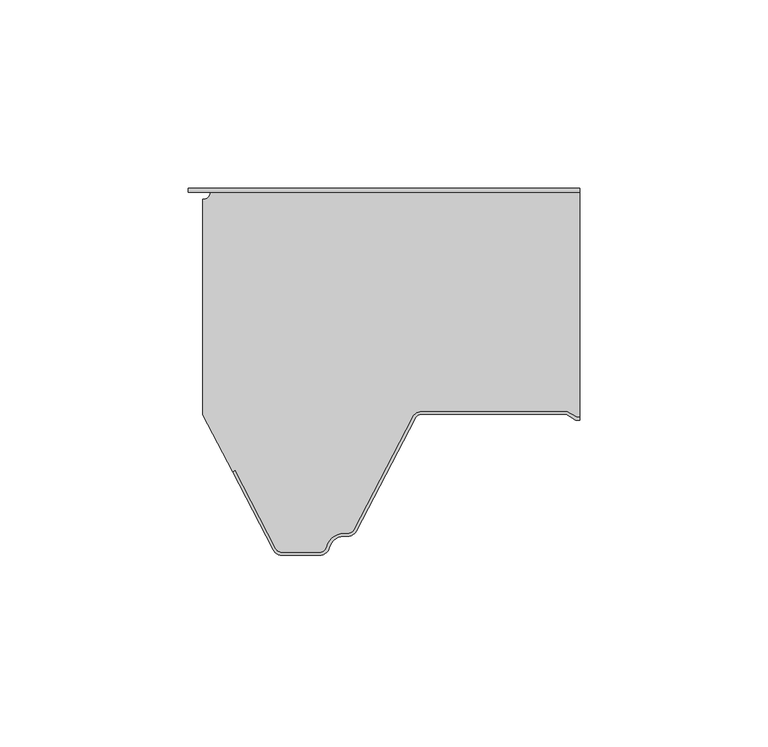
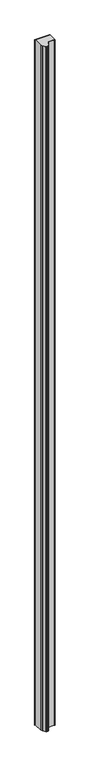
"""IFC4 building model written with IfcOpenShell, lengths in millimetres: plate geometry, Paneles-Sándwich-Madera_PALDR-H_Curtain-Panel : PALDR H 60/10."""

import ifcopenshell
import ifcopenshell.guid

model = None  # the IFC model being written
_history = None  # IfcOwnerHistory: only IFC2X3 demands one
_inside = {}  # id of a spatial element -> (the spatial element, [elements in it])
_under = {}  # id of a project, library or spatial element -> (it, [spatial elements below it])
_declared = {}  # id of a project -> (the project, [libraries it declares])
_typed = {}  # id of a type object -> (the type object, [elements of that type])
_made_of = {}  # id of a material, layer set ... -> (it, [elements and type objects made of it])


def new_model(schema):
    """Start an empty IFC model of exactly this schema.

    Asked for "IFC4X3", IfcOpenShell would pick the latest addendum, in which some entities
    have other attributes; the version numbers below select the first issue.
    IFC2X3 requires an IfcOwnerHistory on every rooted entity: one is made here for all.
    """
    global model, _history
    if schema == "IFC4X3":
        model = ifcopenshell.file(schema_version=(4, 3, 0, 0))
    else:
        model = ifcopenshell.file(schema=schema)
    _inside.clear()
    _under.clear()
    _declared.clear()
    _typed.clear()
    _made_of.clear()
    _history = None
    if model.schema == "IFC2X3":
        org = make("IfcOrganization", Name="unknown")
        user = make(
            "IfcPersonAndOrganization",
            ThePerson=make("IfcPerson", FamilyName="unknown"),
            TheOrganization=org,
        )
        app = make(
            "IfcApplication",
            ApplicationDeveloper=org,
            Version="unknown",
            ApplicationFullName="unknown",
            ApplicationIdentifier="unknown",
        )
        _history = make(
            "IfcOwnerHistory",
            OwningUser=user,
            OwningApplication=app,
            ChangeAction="ADDED",
            CreationDate=0,
        )
    return model


def make(cls, **values):
    """One entity of the class cls with the attributes given. An attribute that is None is left unset."""
    return model.create_entity(
        cls, **{name: value for name, value in values.items() if value is not None}
    )


def rooted(cls, **values):
    """An entity with a GlobalId (a new one), such as an element, a storey or a relation."""
    return make(cls, GlobalId=ifcopenshell.guid.new(), OwnerHistory=_history, **values)


def si_unit(unit_type, name, prefix=None):
    """IfcSIUnit, for example si_unit("LENGTHUNIT", "METRE", prefix="MILLI")."""
    return make("IfcSIUnit", UnitType=unit_type, Prefix=prefix, Name=name)


def assignment(units):
    """IfcUnitAssignment: the units of a project."""
    return None if units is None else make("IfcUnitAssignment", Units=units)


def point(xyz):
    """IfcCartesianPoint."""
    return None if xyz is None else make("IfcCartesianPoint", Coordinates=xyz)


def direction(xyz):
    """IfcDirection."""
    return None if xyz is None else make("IfcDirection", DirectionRatios=xyz)


def frame(location, z_axis=None, x_axis=None):
    """IfcAxis2Placement3D, a coordinate frame: its origin and axes. An axis left out is left unset."""
    return make(
        "IfcAxis2Placement3D",
        Location=point(location),
        Axis=direction(z_axis),
        RefDirection=direction(x_axis),
    )


def origin():
    """The frame at (0, 0, 0) with its axes left unset."""
    return frame((0.0, 0.0, 0.0))


def origin_with_axes():
    """The frame at (0, 0, 0) with the z axis (0, 0, 1) and the x axis (1, 0, 0) written out."""
    return frame((0.0, 0.0, 0.0), z_axis=(0.0, 0.0, 1.0), x_axis=(1.0, 0.0, 0.0))


def place(relative_to, where):
    """IfcLocalPlacement: puts the frame where relative to a parent placement (None: the world)."""
    return make(
        "IfcLocalPlacement", PlacementRelTo=relative_to, RelativePlacement=where
    )


def context(
    kind, dimensions, precision=None, world=None, true_north=None, identifier=None
):
    """IfcGeometricRepresentationContext, for example the 3D "Model" context."""
    return make(
        "IfcGeometricRepresentationContext",
        ContextIdentifier=identifier,
        ContextType=kind,
        CoordinateSpaceDimension=dimensions,
        Precision=precision,
        WorldCoordinateSystem=world,
        TrueNorth=true_north,
    )


def project(units=None, contexts=None):
    """IfcProject with its units and contexts."""
    return rooted(
        "IfcProject",
        Name="project",
        RepresentationContexts=contexts,
        UnitsInContext=assignment(units),
    )


def spatial(cls, under=None, at=None, **own):
    """A site, building, storey or space (cls), placed at a placement, below another one or the project."""
    s = rooted(cls, ObjectPlacement=at, **own)
    if under is not None:
        _under.setdefault(under.id(), (under, []))[1].append(s)
    return s


def polyline(points):
    """IfcPolyline through the points."""
    return make("IfcPolyline", Points=[point(p) for p in points])


def circle_curve(where, radius):
    """IfcCircle in the frame where."""
    return make("IfcCircle", Position=where, Radius=radius)


def outline(outer, holes=None, kind="AREA"):
    """IfcArbitraryClosedProfileDef: a profile drawn as a closed curve; with holes, ...WithVoids."""
    if holes is None:
        return make("IfcArbitraryClosedProfileDef", ProfileType=kind, OuterCurve=outer)
    return make(
        "IfcArbitraryProfileDefWithVoids",
        ProfileType=kind,
        OuterCurve=outer,
        InnerCurves=holes,
    )


def extrude(swept, where, along, depth):
    """IfcExtrudedAreaSolid: the profile swept, set in the frame where, extruded along a direction by depth."""
    return make(
        "IfcExtrudedAreaSolid",
        SweptArea=swept,
        Position=where,
        ExtrudedDirection=direction(along),
        Depth=depth,
    )


def shape(context_of_items, identifier, shape_type, items):
    """IfcShapeRepresentation: the items that make up one representation, for example the "Body"."""
    return make(
        "IfcShapeRepresentation",
        ContextOfItems=context_of_items,
        RepresentationIdentifier=identifier,
        RepresentationType=shape_type,
        Items=items,
    )


def source(mapping_origin, context_of_items, identifier, shape_type, items):
    """IfcRepresentationMap: a shape defined once, which mapped items show again and again."""
    return make(
        "IfcRepresentationMap",
        MappingOrigin=mapping_origin,
        MappedRepresentation=shape(context_of_items, identifier, shape_type, items),
    )


def transform(
    local_origin,
    x_axis=None,
    y_axis=None,
    z_axis=None,
    scale=None,
    scale2=None,
    scale3=None,
    uniform=True,
):
    """IfcCartesianTransformationOperator3D, or its non-uniform kind. x_axis, y_axis, z_axis: its Axis1, 2, 3."""
    if uniform:
        return make(
            "IfcCartesianTransformationOperator3D",
            Axis1=direction(x_axis),
            Axis2=direction(y_axis),
            LocalOrigin=point(local_origin),
            Scale=scale,
            Axis3=direction(z_axis),
        )
    return make(
        "IfcCartesianTransformationOperator3DnonUniform",
        Axis1=direction(x_axis),
        Axis2=direction(y_axis),
        LocalOrigin=point(local_origin),
        Scale=scale,
        Axis3=direction(z_axis),
        Scale2=scale2,
        Scale3=scale3,
    )


def mapped(mapping_source, mapping_target):
    """IfcMappedItem: shows the shape of a source again, moved by a transform."""
    return make(
        "IfcMappedItem", MappingSource=mapping_source, MappingTarget=mapping_target
    )


def made_of(thing, what):
    """Note that an element or type object is made of a material, layer set ...; save() writes the relation."""
    if what is not None:
        _made_of.setdefault(what.id(), (what, []))[1].append(thing)
    return thing


def element(
    cls,
    number,
    at=None,
    inside=None,
    cuts=None,
    type_object=None,
    material=None,
    context=None,
    identifier="Body",
    shape_type=None,
    held_by="IfcProductDefinitionShape",
    body=None,
    shapes=None,
    **own,
):
    """One element of the class cls, such as IfcWall. Its Tag is "e" and its number.

    at: its placement. inside: the storey or other place that contains it. cuts: it is an
    opening in that element (IfcRelVoidsElement). A single representation is given by context,
    identifier, shape_type and body (its items); several are given by shapes. held_by: the class
    of the entity that holds the representations. save() writes the other relations.
    """
    e = rooted(cls, Tag="e%d" % number, ObjectPlacement=at, **own)
    if body is not None:
        shapes = [shape(context, identifier, shape_type, body)]
    if shapes is not None:
        e.Representation = make(held_by, Representations=shapes)
    if inside is not None:
        _inside.setdefault(inside.id(), (inside, []))[1].append(e)
    if cuts is not None:
        rooted(
            "IfcRelVoidsElement", RelatingBuildingElement=cuts, RelatedOpeningElement=e
        )
    if type_object is not None:
        _typed.setdefault(type_object.id(), (type_object, []))[1].append(e)
    return made_of(e, material)


def aggregate(whole, parts):
    """IfcRelAggregates: a whole, such as a stair, and the parts it consists of."""
    return rooted("IfcRelAggregates", RelatingObject=whole, RelatedObjects=parts)


def save(model, path):
    """Write the relations noted so far, then the file.

    IfcRelAggregates (storeys below a building ...), IfcRelContainedInSpatialStructure (elements
    in a storey), IfcRelDefinesByType, IfcRelAssociatesMaterial and IfcRelDeclares: one each for
    every whole, place, type object, material and project.
    """
    for whole, parts in _under.values():
        aggregate(whole, parts)
    for where, things in _inside.values():
        rooted(
            "IfcRelContainedInSpatialStructure",
            RelatedElements=things,
            RelatingStructure=where,
        )
    for kind, things in _typed.values():
        rooted("IfcRelDefinesByType", RelatedObjects=things, RelatingType=kind)
    for what, things in _made_of.values():
        rooted("IfcRelAssociatesMaterial", RelatedObjects=things, RelatingMaterial=what)
    for by, libraries in _declared.values():
        rooted("IfcRelDeclares", RelatingContext=by, RelatedDefinitions=libraries)
    model.write(path)


def plane_surface(at):
    """IfcPlane: the flat surface through the origin of the frame at, square to its z axis."""
    return make("IfcPlane", Position=at)


def cylinder_surface(at, radius):
    """IfcCylindricalSurface: all points at the distance radius from the z axis of the frame at."""
    return make("IfcCylindricalSurface", Position=at, Radius=radius)


def revolved_surface(curve, axis_point, axis_direction):
    """IfcSurfaceOfRevolution: the curve turned about the line through axis_point along axis_direction."""
    return make(
        "IfcSurfaceOfRevolution",
        SweptCurve=make("IfcArbitraryOpenProfileDef", ProfileType="CURVE", Curve=curve),
        AxisPosition=make("IfcAxis1Placement", Location=point(axis_point), Axis=direction(axis_direction)),
    )


def advanced_brep(points, edges, surfaces, faces):
    """IfcAdvancedBrep: a solid bounded by faces that lie on surfaces and meet in shared edges.

    An edge is (start, end): straight between two places in points (the first is 0);
    or (start, end, curve); or (start, end, curve, False) where it runs against its curve.
    A face is (place in surfaces, loops), or (place, loops, False) where it looks against
    its surface's normal. A loop lists edges by number (the first is 1), with a minus sign
    where the edge is run from its end to its start. The first loop is the outer one.
    """
    corners = [point(p) for p in points]
    vertices = [make("IfcVertexPoint", VertexGeometry=c) for c in corners]
    made = []
    for start, end, *more in edges:
        made.append(
            make(
                "IfcEdgeCurve",
                EdgeStart=vertices[start],
                EdgeEnd=vertices[end],
                EdgeGeometry=more[0] if more else make("IfcPolyline", Points=[corners[start], corners[end]]),
                SameSense=more[1] if len(more) > 1 else True,
            )
        )
    hull = []
    for where, loops, *sense in faces:
        bounds = []
        for j, loop in enumerate(loops):
            ring = [make("IfcOrientedEdge", EdgeElement=made[abs(k) - 1], Orientation=k > 0) for k in loop]
            bounds.append(
                make(
                    "IfcFaceOuterBound" if j == 0 else "IfcFaceBound",
                    Bound=make("IfcEdgeLoop", EdgeList=ring),
                    Orientation=True,
                )
            )
        hull.append(make("IfcAdvancedFace", Bounds=bounds, FaceSurface=surfaces[where], SameSense=sense[0] if sense else True))
    return make("IfcAdvancedBrep", Outer=make("IfcClosedShell", CfsFaces=hull))


def plate_cfb06c0a(model_context):
    return source(origin(), model_context, "Body", "SolidModel", [
        extrude(outline(polyline([(-53.88, -1.0), (-53.88, 0.0), (50.0, 0.0), (50.0, -1.0), (-53.88, -1.0)])), origin_with_axes(), (0.0, 0.0, 1.0), 5000.0),
        advanced_brep(
        [(-30.6207387, -95.6314818, 0.0), (-41.4414179, -74.855778, 0.0), (-42.1509492, -75.2253256, 0.0), (-50.0, -60.1551481, 0.0), (-50.0, -2.95, 0.0), (-48.05, -1.0, 0.0), (50.0, -1.0, 0.0), (50.0, -60.7, 0.0), (49.2107961, -60.7, 0.0), (46.6127185, -59.2, 0.0), (8.090871, -59.2, 0.0), (5.6075115, -60.7065836, 0.0), (-9.9783733, -90.6314825, 0.0), (-11.574819, -91.6, 0.0), (-12.6272901, -91.6, 0.0), (-17.2841077, -95.2363636, 0.0), (-19.030414, -96.5999997, 0.0), (-29.024293, -96.5999997, 0.0), (-30.6207383, -95.6314813, 5000.0), (-29.024293, -96.5999997, 5000.0), (-19.030414, -96.5999997, 5000.0), (-17.2841077, -95.2363636, 5000.0), (-12.6272901, -91.6, 5000.0), (-11.574819, -91.6, 5000.0), (-9.9783737, -90.631482, 5000.0), (5.6075107, -60.7065835, 5000.0), (8.090871, -59.2, 5000.0), (46.6127185, -59.2, 5000.0), (49.2107961, -60.7, 5000.0), (50.0, -60.7, 5000.0), (50.0, -1.0, 5000.0), (-48.05, -1.0, 5000.0), (-50.0, -2.95, 5000.0), (-50.0, -60.1551481, 5000.0), (-42.1509492, -75.2253256, 5000.0), (-41.4414179, -74.855778, 5000.0)],
        [
            (0, 1),
            (1, 2),
            (2, 3),
            (3, 4),
            (4, 5, circle_curve(frame((-50.0, -1.0, 0.0), z_axis=(0.0, 0.0, 1.0), x_axis=(-1.0, 0.0, 0.0)), 1.95)),
            (5, 6),
            (6, 7),
            (7, 8),
            (8, 9),
            (9, 10),
            (10, 11, circle_curve(frame((8.090871, -62.0, 0.0), z_axis=(0.0, 0.0, 1.0), x_axis=(-1.0, 0.0, 0.0)), 2.8)),
            (11, 12),
            (12, 13, circle_curve(frame((-11.574819, -89.8, 0.0), z_axis=(0.0, 0.0, -1.0), x_axis=(-1.0, 0.0, 0.0)), 1.8)),
            (13, 14),
            (14, 15, circle_curve(frame((-12.6272901, -96.4, 0.0), z_axis=(0.0, 0.0, 1.0), x_axis=(-1.0, 0.0, 0.0)), 4.8)),
            (15, 16, circle_curve(frame((-19.030414, -94.8, 0.0), z_axis=(0.0, 0.0, -1.0), x_axis=(-1.0, 0.0, 0.0)), 1.7999997)),
            (16, 17),
            (17, 0, circle_curve(frame((-29.024293, -94.8, 0.0), z_axis=(0.0, 0.0, -1.0), x_axis=(-1.0, 0.0, 0.0)), 1.7999997)),
            (18, 19, circle_curve(frame((-29.024293, -94.8, 5000.0), z_axis=(0.0, 0.0, 1.0), x_axis=(-1.0, 0.0, 0.0)), 1.7999997)),
            (19, 20),
            (20, 21, circle_curve(frame((-19.030414, -94.8, 5000.0), z_axis=(0.0, 0.0, 1.0), x_axis=(-1.0, 0.0, 0.0)), 1.7999997)),
            (21, 22, circle_curve(frame((-12.6272901, -96.4, 5000.0), z_axis=(0.0, 0.0, -1.0), x_axis=(-1.0, 0.0, 0.0)), 4.8)),
            (22, 23),
            (23, 24, circle_curve(frame((-11.574819, -89.8, 5000.0), z_axis=(0.0, 0.0, 1.0), x_axis=(-1.0, 0.0, 0.0)), 1.8)),
            (24, 25),
            (25, 26, circle_curve(frame((8.090871, -62.0, 5000.0), z_axis=(0.0, 0.0, -1.0), x_axis=(-1.0, 0.0, 0.0)), 2.8)),
            (26, 27),
            (27, 28),
            (28, 29),
            (29, 30),
            (30, 31),
            (31, 32, circle_curve(frame((-50.0, -1.0, 5000.0), z_axis=(0.0, 0.0, -1.0), x_axis=(-1.0, 0.0, 0.0)), 1.95)),
            (32, 33),
            (33, 34),
            (34, 35),
            (35, 18),
            (0, 18),
            (35, 1),
            (34, 2),
            (33, 3),
            (32, 4),
            (5, 31),
            (30, 6),
            (28, 8),
            (7, 29),
            (27, 9),
            (26, 10),
            (25, 11),
            (24, 12),
            (23, 13),
            (22, 14),
            (21, 15),
            (20, 16),
            (19, 17),
        ],
        [
            plane_surface(frame((-50.0, 0.0, 0.0), z_axis=(0.0, 0.0, -1.0), x_axis=(0.0, 1.0, 0.0))),
            plane_surface(frame((-50.0, 0.0, 5000.0), z_axis=(0.0, 0.0, 1.0), x_axis=(0.0, 1.0, 0.0))),
            plane_surface(frame((-30.6207387, -95.6314818, 0.0), z_axis=(-0.8869140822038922, -0.46193442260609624, 0.0), x_axis=(0.0, 0.0, 1.0))),
            plane_surface(frame((-41.4414179, -74.855778, 0.0), z_axis=(0.4619344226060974, -0.8869140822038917, 0.0), x_axis=(0.0, 0.0, 1.0))),
            plane_surface(frame((-42.1509492, -75.2253256, 0.0), z_axis=(-0.8869140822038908, -0.4619344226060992, 0.0), x_axis=(0.0, 0.0, 1.0))),
            plane_surface(frame((-50.0, -60.1551481, 0.0), z_axis=(-1.0, 0.0, 0.0), x_axis=(0.0, 0.0, 1.0))),
            plane_surface(frame((-48.05, -1.0, 0.0), z_axis=(0.0, 1.0, 0.0), x_axis=(0.0, 0.0, 1.0))),
            plane_surface(frame((81.5859248, -60.7, 0.0), z_axis=(0.0, -1.0, 0.0), x_axis=(0.0, 0.0, 1.0))),
            plane_surface(frame((49.2107961, -60.7, 0.0), z_axis=(-0.4999997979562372, -0.866025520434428, 0.0), x_axis=(0.0, 0.0, 1.0))),
            plane_surface(frame((46.6127185, -59.2, 0.0), z_axis=(0.0, -1.0, 0.0), x_axis=(0.0, 0.0, 1.0))),
            revolved_surface(polyline([(5.290871, -62.0, 5000.0), (5.290871, -62.0, 0.0)]), (8.090871, -62.0, 0.0), (0.0, 0.0, 1.0)),
            plane_surface(frame((5.6075107, -60.7065835, 0.0), z_axis=(0.8869140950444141, -0.4619343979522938, 0.0), x_axis=(0.0, 0.0, 1.0))),
            cylinder_surface(frame((-11.574819, -89.8, 0.0), z_axis=(0.0, 0.0, -1.0), x_axis=(-1.0, 0.0, 0.0)), 1.8),
            plane_surface(frame((-11.574819, -91.6, 0.0), z_axis=(0.0, -1.0, 0.0), x_axis=(0.0, 0.0, 1.0))),
            revolved_surface(polyline([(-17.4272901, -96.4, 5000.0), (-17.4272901, -96.4, 0.0)]), (-12.6272901, -96.4, 0.0), (0.0, 0.0, 1.0)),
            cylinder_surface(frame((-19.030414, -94.8, 0.0), z_axis=(0.0, 0.0, -1.0), x_axis=(-1.0, 0.0, 0.0)), 1.7999997),
            plane_surface(frame((-19.030414, -96.5999997, 0.0), z_axis=(0.0, -1.0, 0.0), x_axis=(0.0, 0.0, 1.0))),
            cylinder_surface(frame((-29.024293, -94.8, 0.0), z_axis=(0.0, 0.0, -1.0), x_axis=(-1.0, 0.0, 0.0)), 1.7999997),
            revolved_surface(polyline([(-51.95, -1.0, 5000.0), (-51.95, -1.0, 0.0)]), (-50.0, -1.0, 0.0), (0.0, 0.0, 1.0)),
            plane_surface(frame((50.0, 0.0, 5000.0), z_axis=(1.0, 0.0, 0.0), x_axis=(0.0, 0.0, -1.0))),
        ],
        [
            (0, [[1, 2, 3, 4, 5, 6, 7, 8, 9, 10, 11, 12, 13, 14, 15, 16, 17, 18]]),
            (1, [[19, 20, 21, 22, 23, 24, 25, 26, 27, 28, 29, 30, 31, 32, 33, 34, 35, 36]]),
            (2, [[-1, 37, -36, 38]]),
            (3, [[-2, -38, -35, 39]]),
            (4, [[-3, -39, -34, 40]]),
            (5, [[-4, -40, -33, 41]]),
            (6, [[42, -31, 43, -6]]),
            (7, [[44, -8, 45, -29]]),
            (8, [[-9, -44, -28, 46]]),
            (9, [[-10, -46, -27, 47]]),
            (10, [[-11, -47, -26, 48]]),
            (11, [[-12, -48, -25, 49]]),
            (12, [[-13, -49, -24, 50]]),
            (13, [[-14, -50, -23, 51]]),
            (14, [[-15, -51, -22, 52]]),
            (15, [[-16, -52, -21, 53]]),
            (16, [[-17, -53, -20, 54]]),
            (17, [[-18, -54, -19, -37]]),
            (18, [[-5, -41, -32, -42]]),
            (19, [[-7, -43, -30, -45]]),
        ],
    ),
        advanced_brep(
        [(49.2107962, -60.7, 5000.0), (46.6127186, -59.2, 5000.0), (8.090871, -59.2, 5000.0), (5.6075116, -60.7065836, 5000.0), (-9.9783733, -90.6314825, 5000.0), (-11.574819, -91.6, 5000.0), (-12.62729, -91.6, 5000.0), (-17.2841076, -95.2363636, 5000.0), (-19.030414, -96.6, 5000.0), (-29.024293, -96.6, 5000.0), (-30.6207383, -95.631482, 5000.0), (-41.4404688, -74.8576004, 5000.0), (-42.15, -75.227148, 5000.0), (-31.33027, -96.00103, 5000.0), (-29.024293, -97.4, 5000.0), (-19.030414, -97.4, 5000.0), (-16.5079711, -95.4303031, 5000.0), (-12.62729, -92.4, 5000.0), (-11.574819, -92.4, 5000.0), (-9.2688424, -91.0010295, 5000.0), (6.317042, -61.076131, 5000.0), (8.090871, -60.0, 5000.0), (46.3983593, -60.0, 5000.0), (48.9964369, -61.5, 5000.0), (50.0, -61.5, 5000.0), (50.0, -60.7, 5000.0), (48.9964369, -61.5, 0.0), (46.3983593, -60.0, 0.0), (8.090871, -60.0, 0.0), (6.3170428, -61.0761312, 0.0), (-9.268842, -91.00103, 0.0), (-11.574819, -92.4, 0.0), (-12.62729, -92.4, 0.0), (-16.5079713, -95.430303, 0.0), (-19.030414, -97.4, 0.0), (-29.024293, -97.4, 0.0), (-31.3302696, -96.0010295, 0.0), (-42.15, -75.227148, 0.0), (-41.4404688, -74.8576004, 0.0), (-30.6207387, -95.6314825, 0.0), (-29.024293, -96.6, 0.0), (-19.030414, -96.6, 0.0), (-17.2841074, -95.2363637, 0.0), (-12.62729, -91.6, 0.0), (-11.574819, -91.6, 0.0), (-9.9783737, -90.631482, 0.0), (5.6075107, -60.7065835, 0.0), (8.090871, -59.2, 0.0), (46.6127186, -59.2, 0.0), (49.2107962, -60.7, 0.0), (50.0, -60.7, 0.0), (50.0, -61.5, 0.0)],
        [
            (0, 1),
            (1, 2),
            (2, 3, circle_curve(frame((8.090871, -62.0, 5000.0), z_axis=(0.0, 0.0, 1.0), x_axis=(1.0, 0.0, 0.0)), 2.8)),
            (3, 4),
            (4, 5, circle_curve(frame((-11.574819, -89.8, 5000.0), z_axis=(0.0, 0.0, -1.0), x_axis=(1.0, 0.0, 0.0)), 1.8)),
            (5, 6),
            (6, 7, circle_curve(frame((-12.62729, -96.4, 5000.0), z_axis=(0.0, 0.0, 1.0), x_axis=(1.0, 0.0, 0.0)), 4.8)),
            (7, 8, circle_curve(frame((-19.030414, -94.8, 5000.0), z_axis=(0.0, 0.0, -1.0), x_axis=(1.0, 0.0, 0.0)), 1.8)),
            (8, 9),
            (9, 10, circle_curve(frame((-29.024293, -94.8, 5000.0), z_axis=(0.0, 0.0, -1.0), x_axis=(1.0, 0.0, 0.0)), 1.8)),
            (10, 11),
            (11, 12),
            (12, 13),
            (13, 14, circle_curve(frame((-29.024293, -94.8, 5000.0), z_axis=(0.0, 0.0, 1.0), x_axis=(1.0, 0.0, 0.0)), 2.6)),
            (14, 15),
            (15, 16, circle_curve(frame((-19.030414, -94.8, 5000.0), z_axis=(0.0, 0.0, 1.0), x_axis=(1.0, 0.0, 0.0)), 2.6)),
            (16, 17, circle_curve(frame((-12.62729, -96.4, 5000.0), z_axis=(0.0, 0.0, -1.0), x_axis=(1.0, 0.0, 0.0)), 4.0)),
            (17, 18),
            (18, 19, circle_curve(frame((-11.574819, -89.8, 5000.0), z_axis=(0.0, 0.0, 1.0), x_axis=(1.0, 0.0, 0.0)), 2.6)),
            (19, 20),
            (20, 21, circle_curve(frame((8.090871, -62.0, 5000.0), z_axis=(0.0, 0.0, -1.0), x_axis=(1.0, 0.0, 0.0)), 2.0)),
            (21, 22),
            (22, 23),
            (23, 24),
            (24, 25),
            (25, 0),
            (26, 27),
            (27, 28),
            (28, 29, circle_curve(frame((8.090871, -62.0, 0.0), z_axis=(0.0, 0.0, 1.0), x_axis=(1.0, 0.0, 0.0)), 2.0)),
            (29, 30),
            (30, 31, circle_curve(frame((-11.574819, -89.8, 0.0), z_axis=(0.0, 0.0, -1.0), x_axis=(1.0, 0.0, 0.0)), 2.6)),
            (31, 32),
            (32, 33, circle_curve(frame((-12.62729, -96.4, 0.0), z_axis=(0.0, 0.0, 1.0), x_axis=(1.0, 0.0, 0.0)), 4.0)),
            (33, 34, circle_curve(frame((-19.030414, -94.8, 0.0), z_axis=(0.0, 0.0, -1.0), x_axis=(1.0, 0.0, 0.0)), 2.6)),
            (34, 35),
            (35, 36, circle_curve(frame((-29.024293, -94.8, 0.0), z_axis=(0.0, 0.0, -1.0), x_axis=(1.0, 0.0, 0.0)), 2.6)),
            (36, 37),
            (37, 38),
            (38, 39),
            (39, 40, circle_curve(frame((-29.024293, -94.8, 0.0), z_axis=(0.0, 0.0, 1.0), x_axis=(1.0, 0.0, 0.0)), 1.8)),
            (40, 41),
            (41, 42, circle_curve(frame((-19.030414, -94.8, 0.0), z_axis=(0.0, 0.0, 1.0), x_axis=(1.0, 0.0, 0.0)), 1.8)),
            (42, 43, circle_curve(frame((-12.62729, -96.4, 0.0), z_axis=(0.0, 0.0, -1.0), x_axis=(1.0, 0.0, 0.0)), 4.8)),
            (43, 44),
            (44, 45, circle_curve(frame((-11.574819, -89.8, 0.0), z_axis=(0.0, 0.0, 1.0), x_axis=(1.0, 0.0, 0.0)), 1.8)),
            (45, 46),
            (46, 47, circle_curve(frame((8.090871, -62.0, 0.0), z_axis=(0.0, 0.0, -1.0), x_axis=(1.0, 0.0, 0.0)), 2.8)),
            (47, 48),
            (48, 49),
            (49, 50),
            (50, 51),
            (51, 26),
            (49, 0),
            (25, 50),
            (48, 1),
            (47, 2),
            (46, 3),
            (45, 4),
            (44, 5),
            (43, 6),
            (42, 7),
            (41, 8),
            (40, 9),
            (39, 10),
            (38, 11),
            (37, 12),
            (36, 13),
            (35, 14),
            (34, 15),
            (33, 16),
            (32, 17),
            (31, 18),
            (30, 19),
            (29, 20),
            (28, 21),
            (27, 22),
            (26, 23),
            (51, 24),
        ],
        [
            plane_surface(frame((-50.0, -60.0, 5000.0), z_axis=(0.0, 0.0, 1.0), x_axis=(0.0, 1.0, 0.0))),
            plane_surface(frame((-50.0, -60.0, 0.0), z_axis=(0.0, 0.0, -1.0), x_axis=(0.0, 1.0, 0.0))),
            plane_surface(frame((81.5859248, -60.7, 5000.0), z_axis=(0.0, 1.0, 0.0), x_axis=(0.0, 0.0, -1.0))),
            plane_surface(frame((49.2107962, -60.7, 5000.0), z_axis=(0.4999997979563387, 0.8660255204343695, 0.0), x_axis=(0.0, 0.0, -1.0))),
            plane_surface(frame((46.6127186, -59.2, 5000.0), z_axis=(0.0, 1.0, 0.0), x_axis=(0.0, 0.0, -1.0))),
            cylinder_surface(frame((8.090871, -62.0, 5000.0), z_axis=(0.0, 0.0, 1.0), x_axis=(1.0, 0.0, 0.0)), 2.8),
            plane_surface(frame((5.6075107, -60.7065835, 5000.0), z_axis=(-0.8869140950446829, 0.4619343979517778, 0.0), x_axis=(0.0, 0.0, -1.0))),
            revolved_surface(polyline([(-9.774818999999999, -89.8, 0.0), (-9.774818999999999, -89.8, 5000.0)]), (-11.574819, -89.8, 5000.0), (0.0, 0.0, -1.0)),
            plane_surface(frame((-11.574819, -91.6, 5000.0), z_axis=(0.0, 1.0, 0.0), x_axis=(0.0, 0.0, -1.0))),
            cylinder_surface(frame((-12.62729, -96.4, 5000.0), z_axis=(0.0, 0.0, 1.0), x_axis=(1.0, 0.0, 0.0)), 4.8),
            revolved_surface(polyline([(-17.230414, -94.8, 0.0), (-17.230414, -94.8, 5000.0)]), (-19.030414, -94.8, 5000.0), (0.0, 0.0, -1.0)),
            plane_surface(frame((-19.030414, -96.6, 5000.0), z_axis=(0.0, 1.0, 0.0), x_axis=(0.0, 0.0, -1.0))),
            revolved_surface(polyline([(-27.224293, -94.8, 0.0), (-27.224293, -94.8, 5000.0)]), (-29.024293, -94.8, 5000.0), (0.0, 0.0, -1.0)),
            plane_surface(frame((-30.6207387, -95.6314825, 5000.0), z_axis=(0.8869140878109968, 0.46193441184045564, 0.0), x_axis=(0.0, 0.0, -1.0))),
            plane_surface(frame((-41.4404688, -74.8576004, 5000.0), z_axis=(-0.46193450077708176, 0.8869140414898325, 0.0), x_axis=(0.0, 0.0, -1.0))),
            plane_surface(frame((-42.15, -75.227148, 5000.0), z_axis=(-0.8869140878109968, -0.46193441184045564, 0.0), x_axis=(0.0, 0.0, -1.0))),
            cylinder_surface(frame((-29.024293, -94.8, 5000.0), z_axis=(0.0, 0.0, 1.0), x_axis=(1.0, 0.0, 0.0)), 2.6),
            plane_surface(frame((-29.024293, -97.4, 5000.0), z_axis=(0.0, -1.0, 0.0), x_axis=(0.0, 0.0, -1.0))),
            cylinder_surface(frame((-19.030414, -94.8, 5000.0), z_axis=(0.0, 0.0, 1.0), x_axis=(1.0, 0.0, 0.0)), 2.6),
            revolved_surface(polyline([(-8.62729, -96.4, 0.0), (-8.62729, -96.4, 5000.0)]), (-12.62729, -96.4, 5000.0), (0.0, 0.0, -1.0)),
            plane_surface(frame((-12.62729, -92.4, 5000.0), z_axis=(0.0, -1.0, 0.0), x_axis=(0.0, 0.0, -1.0))),
            cylinder_surface(frame((-11.574819, -89.8, 5000.0), z_axis=(0.0, 0.0, 1.0), x_axis=(1.0, 0.0, 0.0)), 2.6),
            plane_surface(frame((-9.268842, -91.00103, 5000.0), z_axis=(0.8869140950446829, -0.4619343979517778, 0.0), x_axis=(0.0, 0.0, -1.0))),
            revolved_surface(polyline([(10.090871, -62.0, 0.0), (10.090871, -62.0, 5000.0)]), (8.090871, -62.0, 5000.0), (0.0, 0.0, -1.0)),
            plane_surface(frame((8.090871, -60.0, 5000.0), z_axis=(0.0, -1.0, 0.0), x_axis=(0.0, 0.0, -1.0))),
            plane_surface(frame((46.3983593, -60.0, 5000.0), z_axis=(-0.4999997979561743, -0.8660255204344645, 0.0), x_axis=(0.0, 0.0, -1.0))),
            plane_surface(frame((48.9964369, -61.5, 5000.0), z_axis=(0.0, -1.0, 0.0), x_axis=(0.0, 0.0, -1.0))),
            plane_surface(frame((50.0, 0.0, 5000.0), z_axis=(1.0, 0.0, 0.0), x_axis=(0.0, 0.0, -1.0))),
        ],
        [
            (0, [[1, 2, 3, 4, 5, 6, 7, 8, 9, 10, 11, 12, 13, 14, 15, 16, 17, 18, 19, 20, 21, 22, 23, 24, 25, 26]]),
            (1, [[27, 28, 29, 30, 31, 32, 33, 34, 35, 36, 37, 38, 39, 40, 41, 42, 43, 44, 45, 46, 47, 48, 49, 50, 51, 52]]),
            (2, [[53, -26, 54, -50]]),
            (3, [[-1, -53, -49, 55]]),
            (4, [[-2, -55, -48, 56]]),
            (5, [[-3, -56, -47, 57]]),
            (6, [[-4, -57, -46, 58]]),
            (7, [[-5, -58, -45, 59]]),
            (8, [[-6, -59, -44, 60]]),
            (9, [[-7, -60, -43, 61]]),
            (10, [[-8, -61, -42, 62]]),
            (11, [[-9, -62, -41, 63]]),
            (12, [[-10, -63, -40, 64]]),
            (13, [[-11, -64, -39, 65]]),
            (14, [[-12, -65, -38, 66]]),
            (15, [[-13, -66, -37, 67]]),
            (16, [[-14, -67, -36, 68]]),
            (17, [[-15, -68, -35, 69]]),
            (18, [[-16, -69, -34, 70]]),
            (19, [[-17, -70, -33, 71]]),
            (20, [[-18, -71, -32, 72]]),
            (21, [[-19, -72, -31, 73]]),
            (22, [[-20, -73, -30, 74]]),
            (23, [[-21, -74, -29, 75]]),
            (24, [[-22, -75, -28, 76]]),
            (25, [[-23, -76, -27, 77]]),
            (26, [[-77, -52, 78, -24]]),
            (27, [[-25, -78, -51, -54]]),
        ],
    ),
    ])


if __name__ == "__main__":
    model = new_model("IFC4")
    model_context = context("Model", 3, world=origin())
    ifc_project = project(units=[si_unit("LENGTHUNIT", "METRE", prefix="MILLI")], contexts=[model_context])
    site = spatial("IfcSite", under=ifc_project)
    building = spatial("IfcBuilding", under=site)
    placement = place(None, origin())
    plate_shape = plate_cfb06c0a(model_context)
    element("IfcPlate", 1, ObjectType="Paneles-Sándwich-Madera_PALDR-H_Curtain-Panel : PALDR H 60/10", at=placement, inside=building, context=model_context, shape_type="MappedRepresentation", body=[
        mapped(plate_shape, transform((0.0, 0.0, 0.0), x_axis=(1.0, 0.0, 0.0), y_axis=(0.0, 1.0, 0.0), z_axis=(0.0, 0.0, 1.0))),
    ])
    save(model, "model.ifc")
